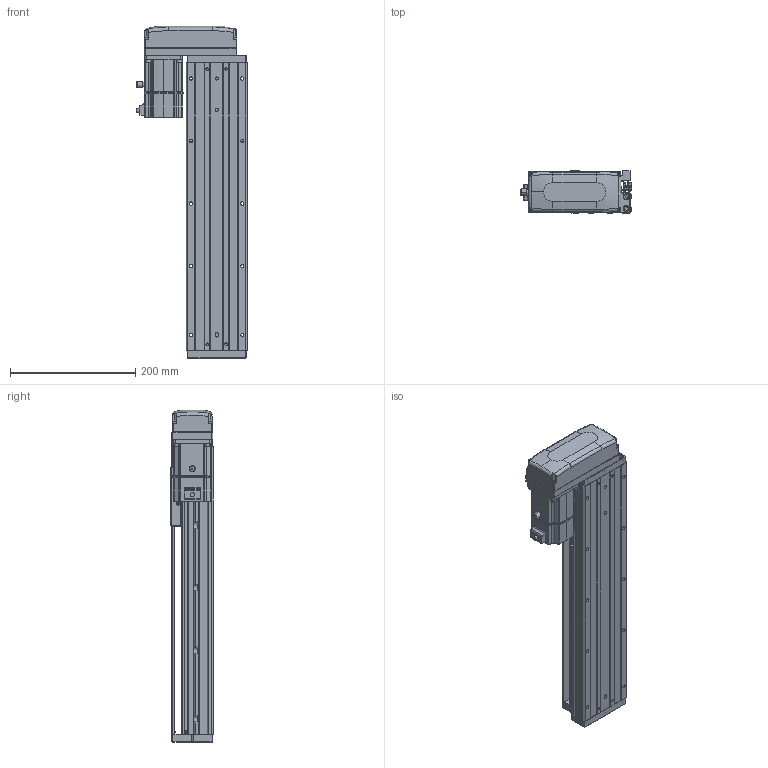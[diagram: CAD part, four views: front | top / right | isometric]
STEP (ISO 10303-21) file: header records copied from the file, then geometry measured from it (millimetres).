
FILE_DESCRIPTION (( 'STEP AP203' ), '1' );
FILE_NAME ('KTHA100-300-BR-M20-C4L.step', '2022-04-26T01:59:16', ( '微软用户' ), ( '微软中国' ), 'SwSTEP 2.0', 'SolidWorks 2020', '' );
FILE_SCHEMA (( 'CONFIG_CONTROL_DESIGN' ));
Length unit declared in the file: millimetre
Products named in the file (17): CTHA60-021; CTHA86-015-1_CTHA86-015-2; KTHA100-002; GBT77-2000 M3×3; CTHA86-033; KTHA100-004; GBT 70.1-M3℅6; KTHA100-300-BR-M20-C4L; KTHA100-005; GBT70.1 M5℅16; GB¨uT 70.2-M3¡Á5_M3¡Á6; CTHA60-016; EE_SX911P_R; GBT 70.3-M3℅6; CTHA60-017; _X2_4E0983F1_X0_200W_1; KTHA100-001_460
Assembly tree (57 placements, depth 2):
  KTHA100-300-BR-M20-C4L
    KTHA100-001_460
    KTHA100-002
    KTHA100-004
    KTHA100-005
    GB¨uT 70.2-M3¡Á5_M3¡Á6  x6
    EE_SX911P_R  x3
    CTHA60-017  x3
    CTHA60-021  x2
    GBT77-2000 M3×3  x6
    GBT 70.1-M3℅6  x10
    GBT70.1 M5℅16  x14
    CTHA60-016  x2
    GBT 70.3-M3℅6  x4
    _X2_4E0983F1_X0_200W_1
    CTHA86-015-1_CTHA86-015-2
    CTHA86-033
Bounding box: 178.52 x 68 x 531 mm (x, y, z)
Volume: 2625591.9 mm3; surface area: 435549.7 mm2
Topology: 60 solids, 60 shells, 2377 faces, 5665 edges, 3508 vertices
Faces by surface type: plane 1208, cylinder 659, cone 303, torus 116, bspline 75, sphere 16
Entity records: 40010 total; most frequent: CARTESIAN_POINT 8112, DIRECTION 6162, ORIENTED_EDGE 5942, EDGE_CURVE 2971, AXIS2_PLACEMENT_3D 2166, VERTEX_POINT 1868, LINE 1830, VECTOR 1830
